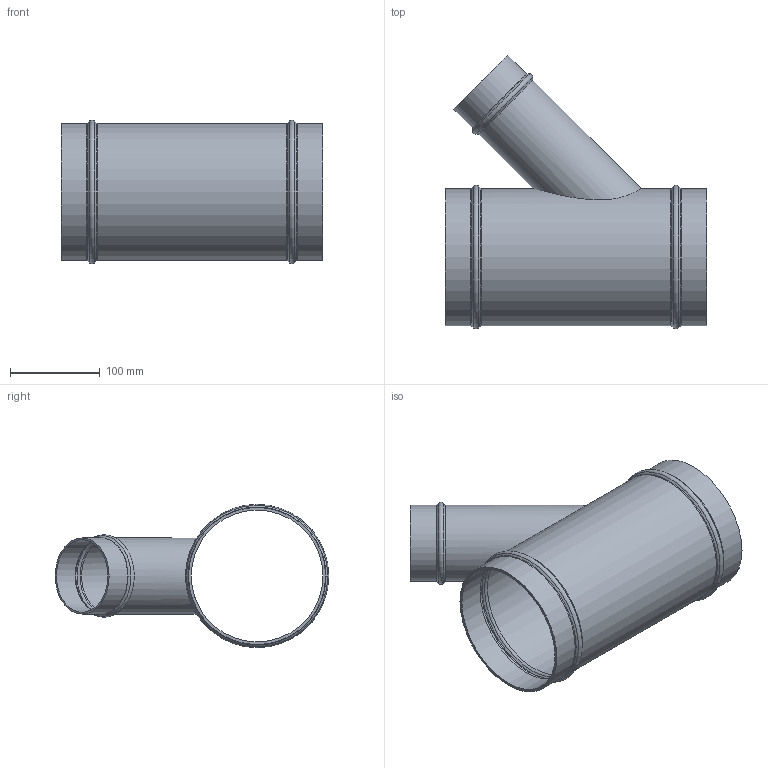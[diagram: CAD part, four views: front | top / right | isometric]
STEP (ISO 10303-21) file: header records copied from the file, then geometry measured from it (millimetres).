
FILE_DESCRIPTION(/* description */ (''),/* implementation_level */ '2;1');
FILE_NAME(/* name */ '30212100701 2016 9712 00.stp',/* time_stamp */ '2024-03-13T09:35:58+08:00',/* author */ (''),/* organization */ (''),/* preprocessor_version */ 'ST-DEVELOPER v11',/* originating_system */ 'SIEMENS PLM Software NX 7.5',/* authorisation */ '');
FILE_SCHEMA (('CONFIG_CONTROL_DESIGN'));
Length unit declared in the file: millimetre
Products named in the file (1): AdmiE02318eu
Bounding box: 292 x 305.2 x 159.98 mm (x, y, z)
Volume: 491364.8 mm3; surface area: 362488.9 mm2
Topology: 1 solids, 1 shells, 43 faces, 84 edges, 44 vertices
Faces by surface type: torus 18, cone 12, cylinder 10, plane 3
Full cylindrical faces by diameter (mm): 81 x2, 85 x2, 147 x3, 153 x3
Entity records: 1068 total; most frequent: CARTESIAN_POINT 238, DIRECTION 172, FACE_BOUND 88, EDGE_LOOP 88, ORIENTED_EDGE 88, AXIS2_PLACEMENT_3D 86, VERTEX_POINT 44, EDGE_CURVE 44
